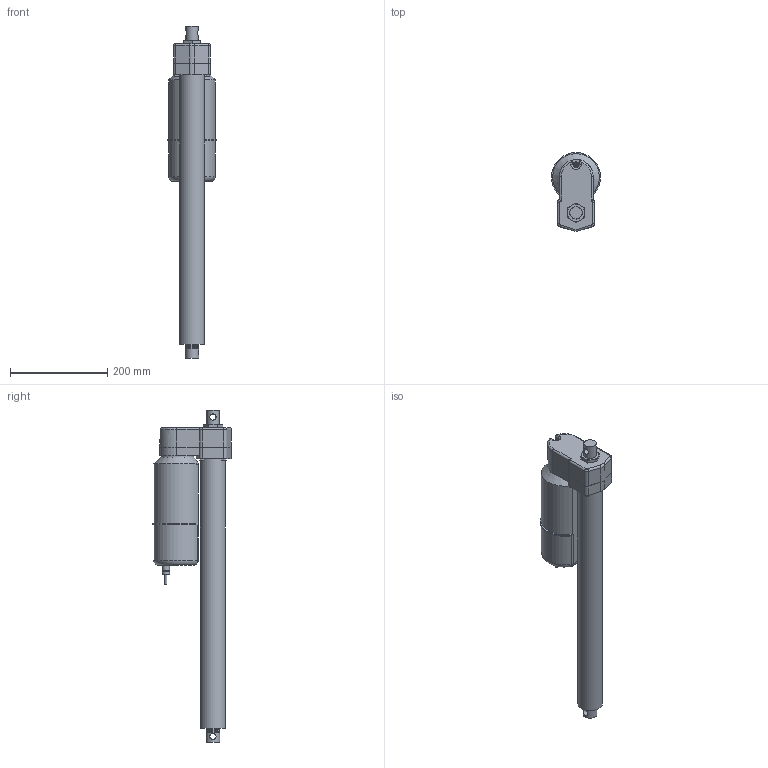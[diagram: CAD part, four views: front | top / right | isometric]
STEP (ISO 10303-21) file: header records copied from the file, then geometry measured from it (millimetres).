
FILE_DESCRIPTION (( 'STEP AP214' ), '1' );
FILE_NAME ('A42-05B5-16M0N-tollo.step', '2020-04-06T18:53:45', ( '' ), ( '' ), 'SwSTEP 2.0', 'SolidWorks 2010', '' );
FILE_SCHEMA (( 'AUTOMOTIVE_DESIGN' ));
Length unit declared in the file: millimetre
Products named in the file (7): Electrak-LA5-Motor-A42-05B5-16M0N-tollo_Electrak-LA5-Motor-A42-05B5-16M0N-tollo; Electrak-LA5-Rear-A42-05B5-16M0N-tollo_Electrak-LA5-Rear-A42-05B5-16M0N-tollo; Electrak-LA5-Tube-A42-05B5-16M0N-tollo_Electrak-LA5-Tube-A42-05B5-16M0N-tollo; Electrak-LA5-Rod-A42-05B5-16M0N-tollo_Electrak-LA5-Rod-A42-05B5-16M0N-tollo; Screw-MFX-H-M5-A42-05B5-16M0N-tollo_Screw-MFX-H-M5-A42-05B5-16M0N-tollo; Screw-M6S-M5-A42-05B5-16M0N-tollo_Screw-M6S-M5-A42-05B5-16M0N-tollo; A42-05B5-16M0N-tollo
Assembly tree (9 placements, depth 2):
  A42-05B5-16M0N-tollo
    Electrak-LA5-Rear-A42-05B5-16M0N-tollo_Electrak-LA5-Rear-A42-05B5-16M0N-tollo
    Electrak-LA5-Tube-A42-05B5-16M0N-tollo_Electrak-LA5-Tube-A42-05B5-16M0N-tollo
    Screw-M6S-M5-A42-05B5-16M0N-tollo_Screw-M6S-M5-A42-05B5-16M0N-tollo  x4
    Electrak-LA5-Rod-A42-05B5-16M0N-tollo_Electrak-LA5-Rod-A42-05B5-16M0N-tollo
    Screw-MFX-H-M5-A42-05B5-16M0N-tollo_Screw-MFX-H-M5-A42-05B5-16M0N-tollo
    Electrak-LA5-Motor-A42-05B5-16M0N-tollo_Electrak-LA5-Motor-A42-05B5-16M0N-tollo
Bounding box: 100.99 x 162.5 x 683.8 mm (x, y, z)
Volume: 3267400.7 mm3; surface area: 332472.5 mm2
Topology: 9 solids, 9 shells, 238 faces, 549 edges, 347 vertices
Faces by surface type: plane 95, cylinder 92, cone 31, torus 15, bspline 3, sphere 2
Full cylindrical faces by diameter (mm): 4 x1, 4.126 x5, 4.8 x2, 5 x13, 7.878 x4, 9.3 x1, 10 x1, 12.8 x2, 15 x2, 25.4 x1, 28.6 x4, 51.3 x1, 68 x1
Entity records: 5776 total; most frequent: CARTESIAN_POINT 1721, DIRECTION 806, ORIENTED_EDGE 666, AXIS2_PLACEMENT_3D 339, EDGE_CURVE 333, EDGE_LOOP 245, VERTEX_POINT 236, FACE_OUTER_BOUND 198
